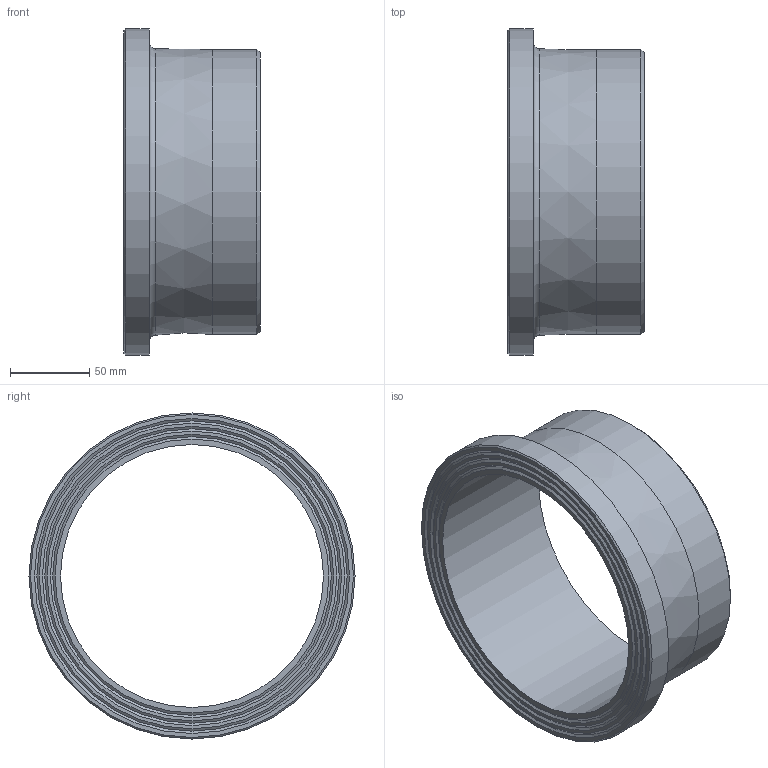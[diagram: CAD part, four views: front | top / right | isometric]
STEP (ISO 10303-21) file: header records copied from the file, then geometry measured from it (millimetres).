
FILE_DESCRIPTION(/* description */ ('Unknown'),/* implementation_level */ '2;1');
FILE_NAME(/* name */ 'CCP180A',/* time_stamp */ '2022-04-05T10:01:08+02:00',/* author */ ('Unknown'),/* organization */ ('Unknown'),/* preprocessor_version */ 'ST-DEVELOPER v18.1',/* originating_system */ 'Solid Edge',/* authorisation */ 'Unknown');
FILE_SCHEMA (('AUTOMOTIVE_DESIGN {1 0 10303 214 3 1 1}'));
Length unit declared in the file: millimetre
Products named in the file (1): CCP180A
Bounding box: 86 x 206 x 206 mm (x, y, z)
Volume: 452055 mm3; surface area: 117165.6 mm2
Topology: 1 solids, 1 shells, 19 faces, 33 edges, 20 vertices
Faces by surface type: cone 9, plane 6, cylinder 3, torus 1
Full cylindrical faces by diameter (mm): 166.2 x1, 180 x1, 206 x1
Entity records: 418 total; most frequent: DIRECTION 78, CARTESIAN_POINT 58, AXIS2_PLACEMENT_3D 39, ORIENTED_EDGE 38, EDGE_LOOP 38, FACE_BOUND 38, EDGE_CURVE 19, VERTEX_POINT 19
